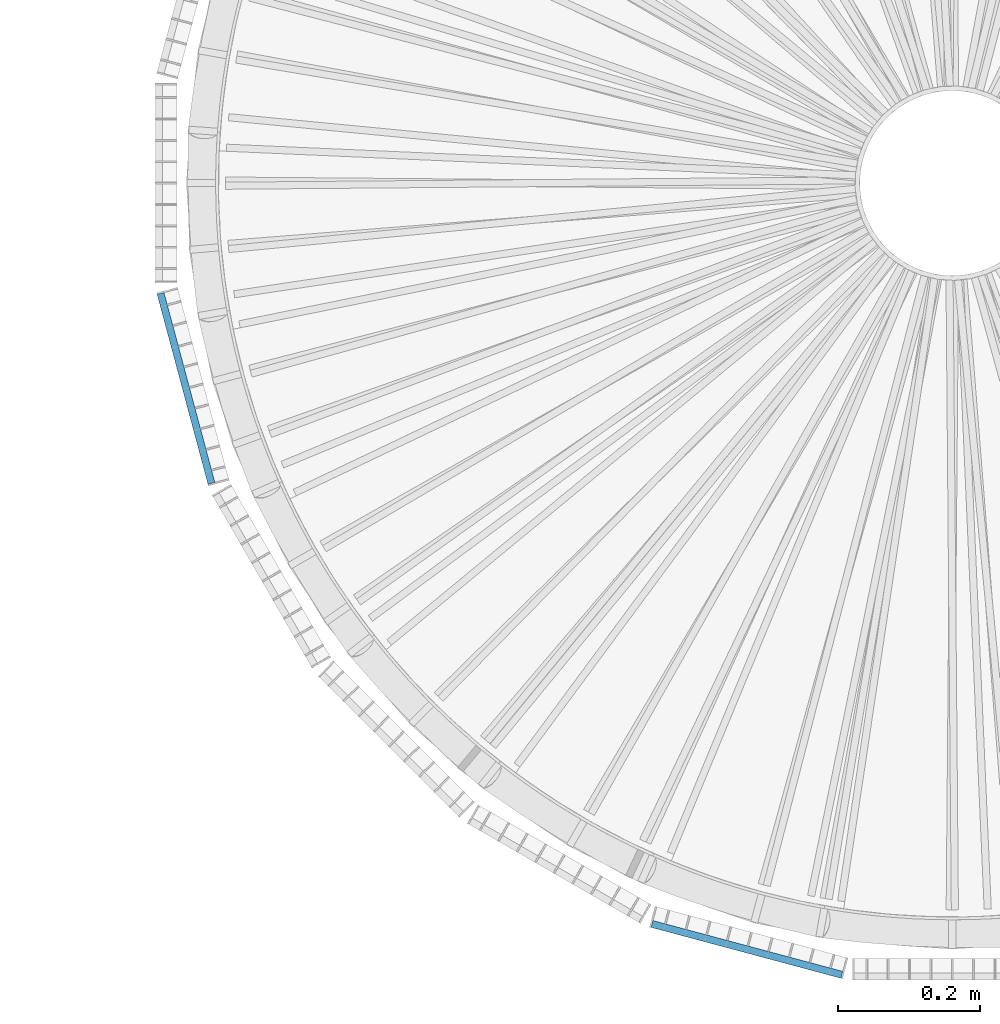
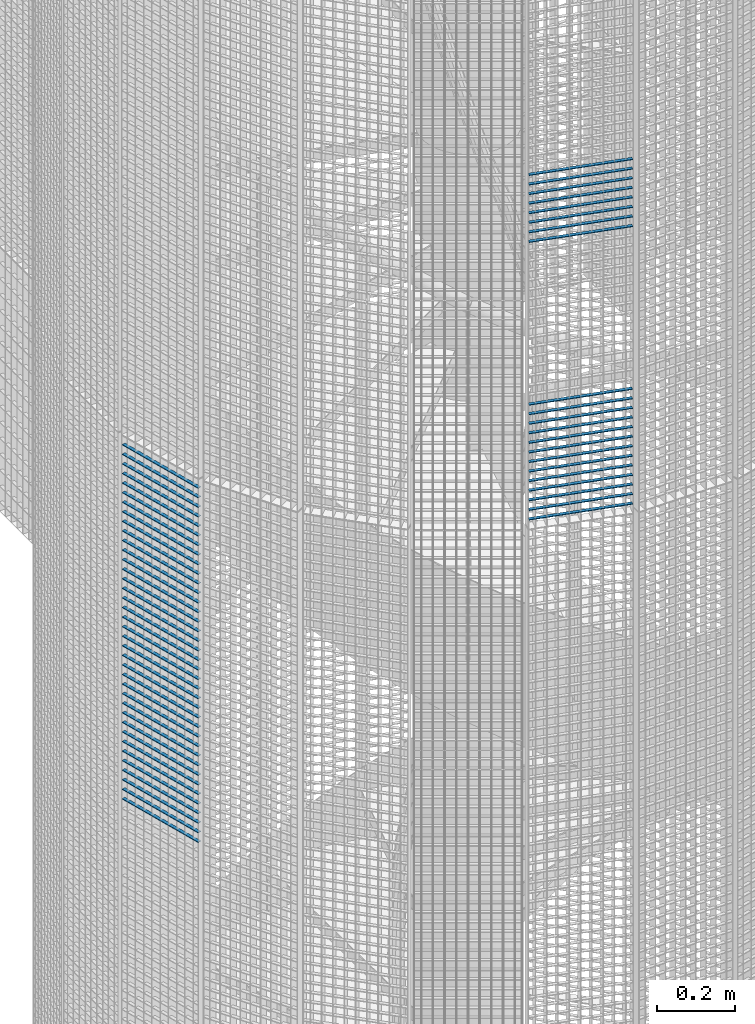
# One storey, part 370 of 1183: 59 beams, 2 elements without a shape of their own.
"""IFC2X3 building model written with IfcOpenShell, lengths in millimetres."""

from ifc_helpers import new_model, si_unit, frame, origin_with_axes, origin_2d_with_axis, place, context, subcontext, project, spatial, rectangle, extrude, material, type_object, element, aggregate, save


model = new_model("IFC2X3")

# Units and contexts
model_context = context("Model", 3, precision=1e-05, world=origin_with_axes())
body_context = subcontext(model_context, "Body", "Model", "MODEL_VIEW")
ifc_project = project(units=[si_unit("LENGTHUNIT", "METRE", prefix="MILLI"), si_unit("AREAUNIT", "SQUARE_METRE"), si_unit("VOLUMEUNIT", "CUBIC_METRE"), si_unit("MASSUNIT", "GRAM", prefix="KILO"), si_unit("TIMEUNIT", "SECOND"), si_unit("PLANEANGLEUNIT", "RADIAN"), si_unit("SOLIDANGLEUNIT", "STERADIAN"), si_unit("THERMODYNAMICTEMPERATUREUNIT", "DEGREE_CELSIUS"), si_unit("LUMINOUSINTENSITYUNIT", "LUMEN")], contexts=[model_context])

# Site, building, storey
site_placement = place(None, origin_with_axes())
site = spatial("IfcSite", under=ifc_project, at=site_placement, Name="Undefined", CompositionType="ELEMENT")
building_placement = place(site_placement, origin_with_axes())
building = spatial("IfcBuilding", under=site, at=building_placement, Name="Undefined", CompositionType="ELEMENT")
storey_placement = place(building_placement, origin_with_axes())
storey = spatial("IfcBuildingStorey", under=building, at=storey_placement, Name="Undefined", CompositionType="ELEMENT", Elevation=0.0)

# Assembly, beams
assembly_1_placement = place(storey_placement, origin_with_axes())
assembly_1 = element("IfcElementAssembly", 1, at=assembly_1_placement, inside=storey, Name="BORDURE", AssemblyPlace="NOTDEFINED", PredefinedType="NOTDEFINED")
ifc_material = material(Name="STEEL/S235JR")
beam_type = type_object("IfcBeamType", Name="PL2*10", PredefinedType="NOTDEFINED")
beam_1_placement = place(assembly_1_placement, frame((21445.1040732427, -1111.25508286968, 6900.0), z_axis=(-0.258819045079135, -0.965925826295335, 0.0), x_axis=(-0.965925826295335, 0.258819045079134, 0.0)))
beam_1 = element("IfcBeam", 2, at=beam_1_placement, type_object=beam_type, material=ifc_material, Name="ENTRETOISE", context=body_context, shape_type="SweptSolid", body=[
    extrude(rectangle(XDim=2.0, YDim=10.0, at=origin_2d_with_axis()), frame((275.999999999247, 9.09494701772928e-13, 1.53210777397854e-14), z_axis=(-1.0, 0.0, 0.0), x_axis=(0.0, -1.0, 0.0)), (0.0, 0.0, 1.0), 276.0),
])
beam_2_placement = place(assembly_1_placement, frame((21445.1040732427, -1111.25508286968, 6390.0), z_axis=(-0.258819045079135, -0.965925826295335, 0.0), x_axis=(-0.965925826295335, 0.258819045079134, 0.0)))
beam_2 = element("IfcBeam", 3, at=beam_2_placement, type_object=beam_type, material=ifc_material, Name="ENTRETOISE", context=body_context, shape_type="SweptSolid", body=[
    extrude(rectangle(XDim=2.0, YDim=10.0, at=origin_2d_with_axis()), frame((275.999999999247, 9.09494701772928e-13, 1.53210777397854e-14), z_axis=(-1.0, 0.0, 0.0), x_axis=(0.0, -1.0, 0.0)), (0.0, 0.0, 1.0), 276.0),
])
beam_3_placement = place(assembly_1_placement, frame((21445.1040732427, -1111.25508286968, 6930.0), z_axis=(-0.258819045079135, -0.965925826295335, 0.0), x_axis=(-0.965925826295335, 0.258819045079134, 0.0)))
beam_3 = element("IfcBeam", 4, at=beam_3_placement, type_object=beam_type, material=ifc_material, Name="ENTRETOISE", context=body_context, shape_type="SweptSolid", body=[
    extrude(rectangle(XDim=2.0, YDim=10.0, at=origin_2d_with_axis()), frame((275.999999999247, 9.09494701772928e-13, 1.53210777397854e-14), z_axis=(-1.0, 0.0, 0.0), x_axis=(0.0, -1.0, 0.0)), (0.0, 0.0, 1.0), 276.0),
])
beam_4_placement = place(assembly_1_placement, frame((21445.1040732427, -1111.25508286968, 6360.0), z_axis=(-0.258819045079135, -0.965925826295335, 0.0), x_axis=(-0.965925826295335, 0.258819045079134, 0.0)))
beam_4 = element("IfcBeam", 5, at=beam_4_placement, type_object=beam_type, material=ifc_material, Name="ENTRETOISE", context=body_context, shape_type="SweptSolid", body=[
    extrude(rectangle(XDim=2.0, YDim=10.0, at=origin_2d_with_axis()), frame((275.999999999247, 9.09494701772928e-13, 1.53210777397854e-14), z_axis=(-1.0, 0.0, 0.0), x_axis=(0.0, -1.0, 0.0)), (0.0, 0.0, 1.0), 276.0),
])
beam_5_placement = place(assembly_1_placement, frame((21445.1040732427, -1111.25508286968, 6330.0), z_axis=(-0.258819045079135, -0.965925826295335, 0.0), x_axis=(-0.965925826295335, 0.258819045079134, 0.0)))
beam_5 = element("IfcBeam", 6, at=beam_5_placement, type_object=beam_type, material=ifc_material, Name="ENTRETOISE", context=body_context, shape_type="SweptSolid", body=[
    extrude(rectangle(XDim=2.0, YDim=10.0, at=origin_2d_with_axis()), frame((275.999999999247, 9.09494701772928e-13, 1.53210777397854e-14), z_axis=(-1.0, 0.0, 0.0), x_axis=(0.0, -1.0, 0.0)), (0.0, 0.0, 1.0), 276.0),
])
beam_6_placement = place(assembly_1_placement, frame((21445.1040732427, -1111.25508286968, 6960.0), z_axis=(-0.258819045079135, -0.965925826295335, 0.0), x_axis=(-0.965925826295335, 0.258819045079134, 0.0)))
beam_6 = element("IfcBeam", 7, at=beam_6_placement, type_object=beam_type, material=ifc_material, Name="ENTRETOISE", context=body_context, shape_type="SweptSolid", body=[
    extrude(rectangle(XDim=2.0, YDim=10.0, at=origin_2d_with_axis()), frame((275.999999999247, 9.09494701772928e-13, 1.53210777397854e-14), z_axis=(-1.0, 0.0, 0.0), x_axis=(0.0, -1.0, 0.0)), (0.0, 0.0, 1.0), 276.0),
])
beam_7_placement = place(assembly_1_placement, frame((21445.1040732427, -1111.25508286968, 6300.0), z_axis=(-0.258819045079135, -0.965925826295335, 0.0), x_axis=(-0.965925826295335, 0.258819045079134, 0.0)))
beam_7 = element("IfcBeam", 8, at=beam_7_placement, type_object=beam_type, material=ifc_material, Name="ENTRETOISE", context=body_context, shape_type="SweptSolid", body=[
    extrude(rectangle(XDim=2.0, YDim=10.0, at=origin_2d_with_axis()), frame((275.999999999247, 9.09494701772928e-13, 1.53210777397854e-14), z_axis=(-1.0, 0.0, 0.0), x_axis=(0.0, -1.0, 0.0)), (0.0, 0.0, 1.0), 276.0),
])
beam_8_placement = place(assembly_1_placement, frame((21445.1040732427, -1111.25508286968, 6270.0), z_axis=(-0.258819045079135, -0.965925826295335, 0.0), x_axis=(-0.965925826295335, 0.258819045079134, 0.0)))
beam_8 = element("IfcBeam", 9, at=beam_8_placement, type_object=beam_type, material=ifc_material, Name="ENTRETOISE", context=body_context, shape_type="SweptSolid", body=[
    extrude(rectangle(XDim=2.0, YDim=10.0, at=origin_2d_with_axis()), frame((275.999999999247, 9.09494701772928e-13, 1.53210777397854e-14), z_axis=(-1.0, 0.0, 0.0), x_axis=(0.0, -1.0, 0.0)), (0.0, 0.0, 1.0), 276.0),
])
beam_9_placement = place(assembly_1_placement, frame((21445.1040732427, -1111.25508286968, 6990.0), z_axis=(-0.258819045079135, -0.965925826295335, 0.0), x_axis=(-0.965925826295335, 0.258819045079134, 0.0)))
beam_9 = element("IfcBeam", 10, at=beam_9_placement, type_object=beam_type, material=ifc_material, Name="ENTRETOISE", context=body_context, shape_type="SweptSolid", body=[
    extrude(rectangle(XDim=2.0, YDim=10.0, at=origin_2d_with_axis()), frame((275.999999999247, 9.09494701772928e-13, 1.53210777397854e-14), z_axis=(-1.0, 0.0, 0.0), x_axis=(0.0, -1.0, 0.0)), (0.0, 0.0, 1.0), 276.0),
])
beam_10_placement = place(assembly_1_placement, frame((21445.1040732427, -1111.25508286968, 6240.0), z_axis=(-0.258819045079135, -0.965925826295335, 0.0), x_axis=(-0.965925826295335, 0.258819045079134, 0.0)))
beam_10 = element("IfcBeam", 11, at=beam_10_placement, type_object=beam_type, material=ifc_material, Name="ENTRETOISE", context=body_context, shape_type="SweptSolid", body=[
    extrude(rectangle(XDim=2.0, YDim=10.0, at=origin_2d_with_axis()), frame((275.999999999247, 9.09494701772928e-13, 1.53210777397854e-14), z_axis=(-1.0, 0.0, 0.0), x_axis=(0.0, -1.0, 0.0)), (0.0, 0.0, 1.0), 276.0),
])
beam_11_placement = place(assembly_1_placement, frame((21445.1040732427, -1111.25508286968, 7020.0), z_axis=(-0.258819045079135, -0.965925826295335, 0.0), x_axis=(-0.965925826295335, 0.258819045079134, 0.0)))
beam_11 = element("IfcBeam", 12, at=beam_11_placement, type_object=beam_type, material=ifc_material, Name="ENTRETOISE", context=body_context, shape_type="SweptSolid", body=[
    extrude(rectangle(XDim=2.0, YDim=10.0, at=origin_2d_with_axis()), frame((275.999999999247, 9.09494701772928e-13, 1.53210777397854e-14), z_axis=(-1.0, 0.0, 0.0), x_axis=(0.0, -1.0, 0.0)), (0.0, 0.0, 1.0), 276.0),
])
beam_12_placement = place(assembly_1_placement, frame((21445.1040732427, -1111.25508286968, 6210.0), z_axis=(-0.258819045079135, -0.965925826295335, 0.0), x_axis=(-0.965925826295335, 0.258819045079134, 0.0)))
beam_12 = element("IfcBeam", 13, at=beam_12_placement, type_object=beam_type, material=ifc_material, Name="ENTRETOISE", context=body_context, shape_type="SweptSolid", body=[
    extrude(rectangle(XDim=2.0, YDim=10.0, at=origin_2d_with_axis()), frame((275.999999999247, 9.09494701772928e-13, 1.53210777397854e-14), z_axis=(-1.0, 0.0, 0.0), x_axis=(0.0, -1.0, 0.0)), (0.0, 0.0, 1.0), 276.0),
])
beam_13_placement = place(assembly_1_placement, frame((21445.1040732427, -1111.25508286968, 6180.0), z_axis=(-0.258819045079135, -0.965925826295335, 0.0), x_axis=(-0.965925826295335, 0.258819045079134, 0.0)))
beam_13 = element("IfcBeam", 14, at=beam_13_placement, type_object=beam_type, material=ifc_material, Name="ENTRETOISE", context=body_context, shape_type="SweptSolid", body=[
    extrude(rectangle(XDim=2.0, YDim=10.0, at=origin_2d_with_axis()), frame((275.999999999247, 9.09494701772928e-13, 1.53210777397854e-14), z_axis=(-1.0, 0.0, 0.0), x_axis=(0.0, -1.0, 0.0)), (0.0, 0.0, 1.0), 276.0),
])
beam_14_placement = place(assembly_1_placement, frame((21445.1040732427, -1111.25508286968, 7050.0), z_axis=(-0.258819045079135, -0.965925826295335, 0.0), x_axis=(-0.965925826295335, 0.258819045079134, 0.0)))
beam_14 = element("IfcBeam", 15, at=beam_14_placement, type_object=beam_type, material=ifc_material, Name="ENTRETOISE", context=body_context, shape_type="SweptSolid", body=[
    extrude(rectangle(XDim=2.0, YDim=10.0, at=origin_2d_with_axis()), frame((275.999999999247, 9.09494701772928e-13, 1.53210777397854e-14), z_axis=(-1.0, 0.0, 0.0), x_axis=(0.0, -1.0, 0.0)), (0.0, 0.0, 1.0), 276.0),
])
beam_15_placement = place(assembly_1_placement, frame((21445.1040732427, -1111.25508286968, 6150.0), z_axis=(-0.258819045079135, -0.965925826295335, 0.0), x_axis=(-0.965925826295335, 0.258819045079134, 0.0)))
beam_15 = element("IfcBeam", 16, at=beam_15_placement, type_object=beam_type, material=ifc_material, Name="ENTRETOISE", context=body_context, shape_type="SweptSolid", body=[
    extrude(rectangle(XDim=2.0, YDim=10.0, at=origin_2d_with_axis()), frame((275.999999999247, 9.09494701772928e-13, 1.53210777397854e-14), z_axis=(-1.0, 0.0, 0.0), x_axis=(0.0, -1.0, 0.0)), (0.0, 0.0, 1.0), 276.0),
])
beam_16_placement = place(assembly_1_placement, frame((21445.1040732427, -1111.25508286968, 6120.0), z_axis=(-0.258819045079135, -0.965925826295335, 0.0), x_axis=(-0.965925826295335, 0.258819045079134, 0.0)))
beam_16 = element("IfcBeam", 17, at=beam_16_placement, type_object=beam_type, material=ifc_material, Name="ENTRETOISE", context=body_context, shape_type="SweptSolid", body=[
    extrude(rectangle(XDim=2.0, YDim=10.0, at=origin_2d_with_axis()), frame((275.999999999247, 9.09494701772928e-13, 1.53210777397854e-14), z_axis=(-1.0, 0.0, 0.0), x_axis=(0.0, -1.0, 0.0)), (0.0, 0.0, 1.0), 276.0),
])
beam_17_placement = place(assembly_1_placement, frame((21445.1040732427, -1111.25508286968, 7080.0), z_axis=(-0.258819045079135, -0.965925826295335, 0.0), x_axis=(-0.965925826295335, 0.258819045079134, 0.0)))
beam_17 = element("IfcBeam", 18, at=beam_17_placement, type_object=beam_type, material=ifc_material, Name="ENTRETOISE", context=body_context, shape_type="SweptSolid", body=[
    extrude(rectangle(XDim=2.0, YDim=10.0, at=origin_2d_with_axis()), frame((275.999999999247, 9.09494701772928e-13, 1.53210777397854e-14), z_axis=(-1.0, 0.0, 0.0), x_axis=(0.0, -1.0, 0.0)), (0.0, 0.0, 1.0), 276.0),
])
beam_18_placement = place(assembly_1_placement, frame((21445.1040732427, -1111.25508286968, 6090.0), z_axis=(-0.258819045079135, -0.965925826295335, 0.0), x_axis=(-0.965925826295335, 0.258819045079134, 0.0)))
beam_18 = element("IfcBeam", 19, at=beam_18_placement, type_object=beam_type, material=ifc_material, Name="ENTRETOISE", context=body_context, shape_type="SweptSolid", body=[
    extrude(rectangle(XDim=2.0, YDim=10.0, at=origin_2d_with_axis()), frame((275.999999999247, 9.09494701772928e-13, 1.53210777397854e-14), z_axis=(-1.0, 0.0, 0.0), x_axis=(0.0, -1.0, 0.0)), (0.0, 0.0, 1.0), 276.0),
])
beam_19_placement = place(assembly_1_placement, frame((21445.1040732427, -1111.25508286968, 6060.0), z_axis=(-0.258819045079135, -0.965925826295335, 0.0), x_axis=(-0.965925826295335, 0.258819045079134, 0.0)))
beam_19 = element("IfcBeam", 20, at=beam_19_placement, type_object=beam_type, material=ifc_material, Name="ENTRETOISE", context=body_context, shape_type="SweptSolid", body=[
    extrude(rectangle(XDim=2.0, YDim=10.0, at=origin_2d_with_axis()), frame((275.999999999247, 9.09494701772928e-13, 1.53210777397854e-14), z_axis=(-1.0, 0.0, 0.0), x_axis=(0.0, -1.0, 0.0)), (0.0, 0.0, 1.0), 276.0),
])
beam_20_placement = place(assembly_1_placement, frame((21445.1040732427, -1111.25508286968, 7110.0), z_axis=(-0.258819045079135, -0.965925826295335, 0.0), x_axis=(-0.965925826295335, 0.258819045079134, 0.0)))
beam_20 = element("IfcBeam", 21, at=beam_20_placement, type_object=beam_type, material=ifc_material, Name="ENTRETOISE", context=body_context, shape_type="SweptSolid", body=[
    extrude(rectangle(XDim=2.0, YDim=10.0, at=origin_2d_with_axis()), frame((275.999999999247, 9.09494701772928e-13, 1.53210777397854e-14), z_axis=(-1.0, 0.0, 0.0), x_axis=(0.0, -1.0, 0.0)), (0.0, 0.0, 1.0), 276.0),
])
beam_21_placement = place(assembly_1_placement, frame((21445.1040732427, -1111.25508286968, 6030.0), z_axis=(-0.258819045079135, -0.965925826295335, 0.0), x_axis=(-0.965925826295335, 0.258819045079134, 0.0)))
beam_21 = element("IfcBeam", 22, at=beam_21_placement, type_object=beam_type, material=ifc_material, Name="ENTRETOISE", context=body_context, shape_type="SweptSolid", body=[
    extrude(rectangle(XDim=2.0, YDim=10.0, at=origin_2d_with_axis()), frame((275.999999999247, 9.09494701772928e-13, 1.53210777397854e-14), z_axis=(-1.0, 0.0, 0.0), x_axis=(0.0, -1.0, 0.0)), (0.0, 0.0, 1.0), 276.0),
])
aggregate(assembly_1, [beam_1, beam_2, beam_3, beam_4, beam_5, beam_6, beam_7, beam_8, beam_9, beam_10, beam_11, beam_12, beam_13, beam_14, beam_15, beam_16, beam_17, beam_18, beam_19, beam_20, beam_21])

assembly_2_placement = place(storey_placement, origin_with_axes())
assembly_2 = element("IfcElementAssembly", 23, at=assembly_2_placement, inside=storey, Name="BORDURE", AssemblyPlace="NOTDEFINED", PredefinedType="NOTDEFINED")
beam_22_placement = place(assembly_2_placement, frame((20560.1769047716, -421.483733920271, 5970.0), z_axis=(-0.965925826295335, -0.258819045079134, 0.0), x_axis=(-0.258819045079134, 0.965925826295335, 0.0)))
beam_22 = element("IfcBeam", 24, at=beam_22_placement, type_object=beam_type, material=ifc_material, Name="ENTRETOISE", context=body_context, shape_type="SweptSolid", body=[
    extrude(rectangle(XDim=2.0, YDim=10.0, at=origin_2d_with_axis()), frame((275.999999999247, 9.09494701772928e-13, 1.53210777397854e-14), z_axis=(-1.0, 0.0, 0.0), x_axis=(0.0, -1.0, 0.0)), (0.0, 0.0, 1.0), 276.0),
])
beam_23_placement = place(assembly_2_placement, frame((20560.1769047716, -421.483733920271, 5940.0), z_axis=(-0.965925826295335, -0.258819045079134, 0.0), x_axis=(-0.258819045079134, 0.965925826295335, 0.0)))
beam_23 = element("IfcBeam", 25, at=beam_23_placement, type_object=beam_type, material=ifc_material, Name="ENTRETOISE", context=body_context, shape_type="SweptSolid", body=[
    extrude(rectangle(XDim=2.0, YDim=10.0, at=origin_2d_with_axis()), frame((275.999999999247, 9.09494701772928e-13, 1.53210777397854e-14), z_axis=(-1.0, 0.0, 0.0), x_axis=(0.0, -1.0, 0.0)), (0.0, 0.0, 1.0), 276.0),
])
beam_24_placement = place(assembly_2_placement, frame((20560.1769047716, -421.483733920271, 5910.0), z_axis=(-0.965925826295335, -0.258819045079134, 0.0), x_axis=(-0.258819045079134, 0.965925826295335, 0.0)))
beam_24 = element("IfcBeam", 26, at=beam_24_placement, type_object=beam_type, material=ifc_material, Name="ENTRETOISE", context=body_context, shape_type="SweptSolid", body=[
    extrude(rectangle(XDim=2.0, YDim=10.0, at=origin_2d_with_axis()), frame((275.999999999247, 9.09494701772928e-13, 1.53210777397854e-14), z_axis=(-1.0, 0.0, 0.0), x_axis=(0.0, -1.0, 0.0)), (0.0, 0.0, 1.0), 276.0),
])
beam_25_placement = place(assembly_2_placement, frame((20560.1769047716, -421.483733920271, 5880.0), z_axis=(-0.965925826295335, -0.258819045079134, 0.0), x_axis=(-0.258819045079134, 0.965925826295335, 0.0)))
beam_25 = element("IfcBeam", 27, at=beam_25_placement, type_object=beam_type, material=ifc_material, Name="ENTRETOISE", context=body_context, shape_type="SweptSolid", body=[
    extrude(rectangle(XDim=2.0, YDim=10.0, at=origin_2d_with_axis()), frame((275.999999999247, 9.09494701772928e-13, 1.53210777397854e-14), z_axis=(-1.0, 0.0, 0.0), x_axis=(0.0, -1.0, 0.0)), (0.0, 0.0, 1.0), 276.0),
])
beam_26_placement = place(assembly_2_placement, frame((20560.1769047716, -421.483733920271, 5850.0), z_axis=(-0.965925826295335, -0.258819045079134, 0.0), x_axis=(-0.258819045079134, 0.965925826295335, 0.0)))
beam_26 = element("IfcBeam", 28, at=beam_26_placement, type_object=beam_type, material=ifc_material, Name="ENTRETOISE", context=body_context, shape_type="SweptSolid", body=[
    extrude(rectangle(XDim=2.0, YDim=10.0, at=origin_2d_with_axis()), frame((275.999999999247, 9.09494701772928e-13, 1.53210777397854e-14), z_axis=(-1.0, 0.0, 0.0), x_axis=(0.0, -1.0, 0.0)), (0.0, 0.0, 1.0), 276.0),
])
beam_27_placement = place(assembly_2_placement, frame((20560.1769047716, -421.483733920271, 5820.0), z_axis=(-0.965925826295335, -0.258819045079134, 0.0), x_axis=(-0.258819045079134, 0.965925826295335, 0.0)))
beam_27 = element("IfcBeam", 29, at=beam_27_placement, type_object=beam_type, material=ifc_material, Name="ENTRETOISE", context=body_context, shape_type="SweptSolid", body=[
    extrude(rectangle(XDim=2.0, YDim=10.0, at=origin_2d_with_axis()), frame((275.999999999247, 9.09494701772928e-13, 1.53210777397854e-14), z_axis=(-1.0, 0.0, 0.0), x_axis=(0.0, -1.0, 0.0)), (0.0, 0.0, 1.0), 276.0),
])
beam_28_placement = place(assembly_2_placement, frame((20560.1769047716, -421.483733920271, 5790.0), z_axis=(-0.965925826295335, -0.258819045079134, 0.0), x_axis=(-0.258819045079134, 0.965925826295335, 0.0)))
beam_28 = element("IfcBeam", 30, at=beam_28_placement, type_object=beam_type, material=ifc_material, Name="ENTRETOISE", context=body_context, shape_type="SweptSolid", body=[
    extrude(rectangle(XDim=2.0, YDim=10.0, at=origin_2d_with_axis()), frame((275.999999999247, 9.09494701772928e-13, 1.53210777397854e-14), z_axis=(-1.0, 0.0, 0.0), x_axis=(0.0, -1.0, 0.0)), (0.0, 0.0, 1.0), 276.0),
])
beam_29_placement = place(assembly_2_placement, frame((20560.1769047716, -421.483733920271, 5760.0), z_axis=(-0.965925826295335, -0.258819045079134, 0.0), x_axis=(-0.258819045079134, 0.965925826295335, 0.0)))
beam_29 = element("IfcBeam", 31, at=beam_29_placement, type_object=beam_type, material=ifc_material, Name="ENTRETOISE", context=body_context, shape_type="SweptSolid", body=[
    extrude(rectangle(XDim=2.0, YDim=10.0, at=origin_2d_with_axis()), frame((275.999999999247, 9.09494701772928e-13, 1.53210777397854e-14), z_axis=(-1.0, 0.0, 0.0), x_axis=(0.0, -1.0, 0.0)), (0.0, 0.0, 1.0), 276.0),
])
beam_30_placement = place(assembly_2_placement, frame((20560.1769047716, -421.48373392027, 5730.0), z_axis=(-0.965925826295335, -0.258819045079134, 0.0), x_axis=(-0.258819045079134, 0.965925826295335, 0.0)))
beam_30 = element("IfcBeam", 32, at=beam_30_placement, type_object=beam_type, material=ifc_material, Name="ENTRETOISE", context=body_context, shape_type="SweptSolid", body=[
    extrude(rectangle(XDim=2.0, YDim=10.0, at=origin_2d_with_axis()), frame((275.999999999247, 9.09494701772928e-13, 1.53210777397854e-14), z_axis=(-1.0, 0.0, 0.0), x_axis=(0.0, -1.0, 0.0)), (0.0, 0.0, 1.0), 276.0),
])
beam_31_placement = place(assembly_2_placement, frame((20560.1769047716, -421.48373392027, 5700.0), z_axis=(-0.965925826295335, -0.258819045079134, 0.0), x_axis=(-0.258819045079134, 0.965925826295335, 0.0)))
beam_31 = element("IfcBeam", 33, at=beam_31_placement, type_object=beam_type, material=ifc_material, Name="ENTRETOISE", context=body_context, shape_type="SweptSolid", body=[
    extrude(rectangle(XDim=2.0, YDim=10.0, at=origin_2d_with_axis()), frame((275.999999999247, 9.09494701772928e-13, 1.53210777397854e-14), z_axis=(-1.0, 0.0, 0.0), x_axis=(0.0, -1.0, 0.0)), (0.0, 0.0, 1.0), 276.0),
])
beam_32_placement = place(assembly_2_placement, frame((20560.1769047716, -421.48373392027, 5670.0), z_axis=(-0.965925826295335, -0.258819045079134, 0.0), x_axis=(-0.258819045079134, 0.965925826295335, 0.0)))
beam_32 = element("IfcBeam", 34, at=beam_32_placement, type_object=beam_type, material=ifc_material, Name="ENTRETOISE", context=body_context, shape_type="SweptSolid", body=[
    extrude(rectangle(XDim=2.0, YDim=10.0, at=origin_2d_with_axis()), frame((275.999999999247, 9.09494701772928e-13, 1.53210777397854e-14), z_axis=(-1.0, 0.0, 0.0), x_axis=(0.0, -1.0, 0.0)), (0.0, 0.0, 1.0), 276.0),
])
beam_33_placement = place(assembly_2_placement, frame((20560.1769047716, -421.48373392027, 5640.0), z_axis=(-0.965925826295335, -0.258819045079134, 0.0), x_axis=(-0.258819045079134, 0.965925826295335, 0.0)))
beam_33 = element("IfcBeam", 35, at=beam_33_placement, type_object=beam_type, material=ifc_material, Name="ENTRETOISE", context=body_context, shape_type="SweptSolid", body=[
    extrude(rectangle(XDim=2.0, YDim=10.0, at=origin_2d_with_axis()), frame((275.999999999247, 9.09494701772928e-13, 1.53210777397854e-14), z_axis=(-1.0, 0.0, 0.0), x_axis=(0.0, -1.0, 0.0)), (0.0, 0.0, 1.0), 276.0),
])
beam_34_placement = place(assembly_2_placement, frame((20560.1769047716, -421.48373392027, 5610.0), z_axis=(-0.965925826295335, -0.258819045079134, 0.0), x_axis=(-0.258819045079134, 0.965925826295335, 0.0)))
beam_34 = element("IfcBeam", 36, at=beam_34_placement, type_object=beam_type, material=ifc_material, Name="ENTRETOISE", context=body_context, shape_type="SweptSolid", body=[
    extrude(rectangle(XDim=2.0, YDim=10.0, at=origin_2d_with_axis()), frame((275.999999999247, 9.09494701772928e-13, 1.53210777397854e-14), z_axis=(-1.0, 0.0, 0.0), x_axis=(0.0, -1.0, 0.0)), (0.0, 0.0, 1.0), 276.0),
])
beam_35_placement = place(assembly_2_placement, frame((20560.1769047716, -421.48373392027, 5580.0), z_axis=(-0.965925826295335, -0.258819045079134, 0.0), x_axis=(-0.258819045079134, 0.965925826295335, 0.0)))
beam_35 = element("IfcBeam", 37, at=beam_35_placement, type_object=beam_type, material=ifc_material, Name="ENTRETOISE", context=body_context, shape_type="SweptSolid", body=[
    extrude(rectangle(XDim=2.0, YDim=10.0, at=origin_2d_with_axis()), frame((275.999999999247, 9.09494701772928e-13, 1.53210777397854e-14), z_axis=(-1.0, 0.0, 0.0), x_axis=(0.0, -1.0, 0.0)), (0.0, 0.0, 1.0), 276.0),
])
beam_36_placement = place(assembly_2_placement, frame((20560.1769047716, -421.48373392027, 5550.0), z_axis=(-0.965925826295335, -0.258819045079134, 0.0), x_axis=(-0.258819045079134, 0.965925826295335, 0.0)))
beam_36 = element("IfcBeam", 38, at=beam_36_placement, type_object=beam_type, material=ifc_material, Name="ENTRETOISE", context=body_context, shape_type="SweptSolid", body=[
    extrude(rectangle(XDim=2.0, YDim=10.0, at=origin_2d_with_axis()), frame((275.999999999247, 9.09494701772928e-13, 1.53210777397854e-14), z_axis=(-1.0, 0.0, 0.0), x_axis=(0.0, -1.0, 0.0)), (0.0, 0.0, 1.0), 276.0),
])
beam_37_placement = place(assembly_2_placement, frame((20560.1769047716, -421.48373392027, 5520.0), z_axis=(-0.965925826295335, -0.258819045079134, 0.0), x_axis=(-0.258819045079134, 0.965925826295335, 0.0)))
beam_37 = element("IfcBeam", 39, at=beam_37_placement, type_object=beam_type, material=ifc_material, Name="ENTRETOISE", context=body_context, shape_type="SweptSolid", body=[
    extrude(rectangle(XDim=2.0, YDim=10.0, at=origin_2d_with_axis()), frame((275.999999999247, 9.09494701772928e-13, 1.53210777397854e-14), z_axis=(-1.0, 0.0, 0.0), x_axis=(0.0, -1.0, 0.0)), (0.0, 0.0, 1.0), 276.0),
])
beam_38_placement = place(assembly_2_placement, frame((20560.1769047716, -421.48373392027, 5490.0), z_axis=(-0.965925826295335, -0.258819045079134, 0.0), x_axis=(-0.258819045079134, 0.965925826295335, 0.0)))
beam_38 = element("IfcBeam", 40, at=beam_38_placement, type_object=beam_type, material=ifc_material, Name="ENTRETOISE", context=body_context, shape_type="SweptSolid", body=[
    extrude(rectangle(XDim=2.0, YDim=10.0, at=origin_2d_with_axis()), frame((275.999999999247, 9.09494701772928e-13, 1.53210777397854e-14), z_axis=(-1.0, 0.0, 0.0), x_axis=(0.0, -1.0, 0.0)), (0.0, 0.0, 1.0), 276.0),
])
beam_39_placement = place(assembly_2_placement, frame((20560.1769047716, -421.483733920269, 5460.0), z_axis=(-0.965925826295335, -0.258819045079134, 0.0), x_axis=(-0.258819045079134, 0.965925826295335, 0.0)))
beam_39 = element("IfcBeam", 41, at=beam_39_placement, type_object=beam_type, material=ifc_material, Name="ENTRETOISE", context=body_context, shape_type="SweptSolid", body=[
    extrude(rectangle(XDim=2.0, YDim=10.0, at=origin_2d_with_axis()), frame((275.999999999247, 9.09494701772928e-13, 1.53210777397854e-14), z_axis=(-1.0, 0.0, 0.0), x_axis=(0.0, -1.0, 0.0)), (0.0, 0.0, 1.0), 276.0),
])
beam_40_placement = place(assembly_2_placement, frame((20560.1769047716, -421.483733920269, 5430.0), z_axis=(-0.965925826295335, -0.258819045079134, 0.0), x_axis=(-0.258819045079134, 0.965925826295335, 0.0)))
beam_40 = element("IfcBeam", 42, at=beam_40_placement, type_object=beam_type, material=ifc_material, Name="ENTRETOISE", context=body_context, shape_type="SweptSolid", body=[
    extrude(rectangle(XDim=2.0, YDim=10.0, at=origin_2d_with_axis()), frame((275.999999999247, 9.09494701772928e-13, 1.53210777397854e-14), z_axis=(-1.0, 0.0, 0.0), x_axis=(0.0, -1.0, 0.0)), (0.0, 0.0, 1.0), 276.0),
])
beam_41_placement = place(assembly_2_placement, frame((20560.1769047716, -421.483733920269, 5400.0), z_axis=(-0.965925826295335, -0.258819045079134, 0.0), x_axis=(-0.258819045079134, 0.965925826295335, 0.0)))
beam_41 = element("IfcBeam", 43, at=beam_41_placement, type_object=beam_type, material=ifc_material, Name="ENTRETOISE", context=body_context, shape_type="SweptSolid", body=[
    extrude(rectangle(XDim=2.0, YDim=10.0, at=origin_2d_with_axis()), frame((275.999999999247, 9.09494701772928e-13, 1.53210777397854e-14), z_axis=(-1.0, 0.0, 0.0), x_axis=(0.0, -1.0, 0.0)), (0.0, 0.0, 1.0), 276.0),
])
beam_42_placement = place(assembly_2_placement, frame((20560.1769047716, -421.483733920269, 5370.0), z_axis=(-0.965925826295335, -0.258819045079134, 0.0), x_axis=(-0.258819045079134, 0.965925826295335, 0.0)))
beam_42 = element("IfcBeam", 44, at=beam_42_placement, type_object=beam_type, material=ifc_material, Name="ENTRETOISE", context=body_context, shape_type="SweptSolid", body=[
    extrude(rectangle(XDim=2.0, YDim=10.0, at=origin_2d_with_axis()), frame((275.999999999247, 9.09494701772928e-13, 1.53210777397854e-14), z_axis=(-1.0, 0.0, 0.0), x_axis=(0.0, -1.0, 0.0)), (0.0, 0.0, 1.0), 276.0),
])
beam_43_placement = place(assembly_2_placement, frame((20560.1769047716, -421.483733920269, 5340.0), z_axis=(-0.965925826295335, -0.258819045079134, 0.0), x_axis=(-0.258819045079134, 0.965925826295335, 0.0)))
beam_43 = element("IfcBeam", 45, at=beam_43_placement, type_object=beam_type, material=ifc_material, Name="ENTRETOISE", context=body_context, shape_type="SweptSolid", body=[
    extrude(rectangle(XDim=2.0, YDim=10.0, at=origin_2d_with_axis()), frame((275.999999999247, 9.09494701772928e-13, 1.53210777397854e-14), z_axis=(-1.0, 0.0, 0.0), x_axis=(0.0, -1.0, 0.0)), (0.0, 0.0, 1.0), 276.0),
])
beam_44_placement = place(assembly_2_placement, frame((20560.1769047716, -421.483733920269, 5310.0), z_axis=(-0.965925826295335, -0.258819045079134, 0.0), x_axis=(-0.258819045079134, 0.965925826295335, 0.0)))
beam_44 = element("IfcBeam", 46, at=beam_44_placement, type_object=beam_type, material=ifc_material, Name="ENTRETOISE", context=body_context, shape_type="SweptSolid", body=[
    extrude(rectangle(XDim=2.0, YDim=10.0, at=origin_2d_with_axis()), frame((275.999999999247, 9.09494701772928e-13, 1.53210777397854e-14), z_axis=(-1.0, 0.0, 0.0), x_axis=(0.0, -1.0, 0.0)), (0.0, 0.0, 1.0), 276.0),
])
beam_45_placement = place(assembly_2_placement, frame((20560.1769047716, -421.483733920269, 5280.0), z_axis=(-0.965925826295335, -0.258819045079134, 0.0), x_axis=(-0.258819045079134, 0.965925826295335, 0.0)))
beam_45 = element("IfcBeam", 47, at=beam_45_placement, type_object=beam_type, material=ifc_material, Name="ENTRETOISE", context=body_context, shape_type="SweptSolid", body=[
    extrude(rectangle(XDim=2.0, YDim=10.0, at=origin_2d_with_axis()), frame((275.999999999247, 9.09494701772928e-13, 1.53210777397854e-14), z_axis=(-1.0, 0.0, 0.0), x_axis=(0.0, -1.0, 0.0)), (0.0, 0.0, 1.0), 276.0),
])
beam_46_placement = place(assembly_2_placement, frame((20560.1769047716, -421.483733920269, 5250.0), z_axis=(-0.965925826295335, -0.258819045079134, 0.0), x_axis=(-0.258819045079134, 0.965925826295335, 0.0)))
beam_46 = element("IfcBeam", 48, at=beam_46_placement, type_object=beam_type, material=ifc_material, Name="ENTRETOISE", context=body_context, shape_type="SweptSolid", body=[
    extrude(rectangle(XDim=2.0, YDim=10.0, at=origin_2d_with_axis()), frame((275.999999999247, 9.09494701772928e-13, 1.53210777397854e-14), z_axis=(-1.0, 0.0, 0.0), x_axis=(0.0, -1.0, 0.0)), (0.0, 0.0, 1.0), 276.0),
])
beam_47_placement = place(assembly_2_placement, frame((20560.1769047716, -421.483733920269, 5220.0), z_axis=(-0.965925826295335, -0.258819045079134, 0.0), x_axis=(-0.258819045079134, 0.965925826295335, 0.0)))
beam_47 = element("IfcBeam", 49, at=beam_47_placement, type_object=beam_type, material=ifc_material, Name="ENTRETOISE", context=body_context, shape_type="SweptSolid", body=[
    extrude(rectangle(XDim=2.0, YDim=10.0, at=origin_2d_with_axis()), frame((275.999999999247, 9.09494701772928e-13, 1.53210777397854e-14), z_axis=(-1.0, 0.0, 0.0), x_axis=(0.0, -1.0, 0.0)), (0.0, 0.0, 1.0), 276.0),
])
beam_48_placement = place(assembly_2_placement, frame((20560.1769047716, -421.483733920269, 5190.0), z_axis=(-0.965925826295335, -0.258819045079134, 0.0), x_axis=(-0.258819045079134, 0.965925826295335, 0.0)))
beam_48 = element("IfcBeam", 50, at=beam_48_placement, type_object=beam_type, material=ifc_material, Name="ENTRETOISE", context=body_context, shape_type="SweptSolid", body=[
    extrude(rectangle(XDim=2.0, YDim=10.0, at=origin_2d_with_axis()), frame((275.999999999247, 9.09494701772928e-13, 1.53210777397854e-14), z_axis=(-1.0, 0.0, 0.0), x_axis=(0.0, -1.0, 0.0)), (0.0, 0.0, 1.0), 276.0),
])
beam_49_placement = place(assembly_2_placement, frame((20560.1769047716, -421.483733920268, 5160.0), z_axis=(-0.965925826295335, -0.258819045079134, 0.0), x_axis=(-0.258819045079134, 0.965925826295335, 0.0)))
beam_49 = element("IfcBeam", 51, at=beam_49_placement, type_object=beam_type, material=ifc_material, Name="ENTRETOISE", context=body_context, shape_type="SweptSolid", body=[
    extrude(rectangle(XDim=2.0, YDim=10.0, at=origin_2d_with_axis()), frame((275.999999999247, 9.09494701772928e-13, 1.53210777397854e-14), z_axis=(-1.0, 0.0, 0.0), x_axis=(0.0, -1.0, 0.0)), (0.0, 0.0, 1.0), 276.0),
])
beam_50_placement = place(assembly_2_placement, frame((20560.1769047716, -421.483733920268, 5130.0), z_axis=(-0.965925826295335, -0.258819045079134, 0.0), x_axis=(-0.258819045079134, 0.965925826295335, 0.0)))
beam_50 = element("IfcBeam", 52, at=beam_50_placement, type_object=beam_type, material=ifc_material, Name="ENTRETOISE", context=body_context, shape_type="SweptSolid", body=[
    extrude(rectangle(XDim=2.0, YDim=10.0, at=origin_2d_with_axis()), frame((275.999999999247, 9.09494701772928e-13, 1.53210777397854e-14), z_axis=(-1.0, 0.0, 0.0), x_axis=(0.0, -1.0, 0.0)), (0.0, 0.0, 1.0), 276.0),
])
beam_51_placement = place(assembly_2_placement, frame((20560.1769047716, -421.483733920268, 5100.0), z_axis=(-0.965925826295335, -0.258819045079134, 0.0), x_axis=(-0.258819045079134, 0.965925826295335, 0.0)))
beam_51 = element("IfcBeam", 53, at=beam_51_placement, type_object=beam_type, material=ifc_material, Name="ENTRETOISE", context=body_context, shape_type="SweptSolid", body=[
    extrude(rectangle(XDim=2.0, YDim=10.0, at=origin_2d_with_axis()), frame((275.999999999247, 9.09494701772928e-13, 1.53210777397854e-14), z_axis=(-1.0, 0.0, 0.0), x_axis=(0.0, -1.0, 0.0)), (0.0, 0.0, 1.0), 276.0),
])
beam_52_placement = place(assembly_2_placement, frame((20560.1769047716, -421.483733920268, 5070.0), z_axis=(-0.965925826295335, -0.258819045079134, 0.0), x_axis=(-0.258819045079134, 0.965925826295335, 0.0)))
beam_52 = element("IfcBeam", 54, at=beam_52_placement, type_object=beam_type, material=ifc_material, Name="ENTRETOISE", context=body_context, shape_type="SweptSolid", body=[
    extrude(rectangle(XDim=2.0, YDim=10.0, at=origin_2d_with_axis()), frame((275.999999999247, 9.09494701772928e-13, 1.53210777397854e-14), z_axis=(-1.0, 0.0, 0.0), x_axis=(0.0, -1.0, 0.0)), (0.0, 0.0, 1.0), 276.0),
])
beam_53_placement = place(assembly_2_placement, frame((20560.1769047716, -421.483733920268, 5040.0), z_axis=(-0.965925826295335, -0.258819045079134, 0.0), x_axis=(-0.258819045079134, 0.965925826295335, 0.0)))
beam_53 = element("IfcBeam", 55, at=beam_53_placement, type_object=beam_type, material=ifc_material, Name="ENTRETOISE", context=body_context, shape_type="SweptSolid", body=[
    extrude(rectangle(XDim=2.0, YDim=10.0, at=origin_2d_with_axis()), frame((275.999999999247, 9.09494701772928e-13, 1.53210777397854e-14), z_axis=(-1.0, 0.0, 0.0), x_axis=(0.0, -1.0, 0.0)), (0.0, 0.0, 1.0), 276.0),
])
beam_54_placement = place(assembly_2_placement, frame((20560.1769047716, -421.483733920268, 5010.0), z_axis=(-0.965925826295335, -0.258819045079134, 0.0), x_axis=(-0.258819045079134, 0.965925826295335, 0.0)))
beam_54 = element("IfcBeam", 56, at=beam_54_placement, type_object=beam_type, material=ifc_material, Name="ENTRETOISE", context=body_context, shape_type="SweptSolid", body=[
    extrude(rectangle(XDim=2.0, YDim=10.0, at=origin_2d_with_axis()), frame((275.999999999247, 9.09494701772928e-13, 1.53210777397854e-14), z_axis=(-1.0, 0.0, 0.0), x_axis=(0.0, -1.0, 0.0)), (0.0, 0.0, 1.0), 276.0),
])
beam_55_placement = place(assembly_2_placement, frame((20560.1769047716, -421.483733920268, 4980.0), z_axis=(-0.965925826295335, -0.258819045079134, 0.0), x_axis=(-0.258819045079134, 0.965925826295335, 0.0)))
beam_55 = element("IfcBeam", 57, at=beam_55_placement, type_object=beam_type, material=ifc_material, Name="ENTRETOISE", context=body_context, shape_type="SweptSolid", body=[
    extrude(rectangle(XDim=2.0, YDim=10.0, at=origin_2d_with_axis()), frame((275.999999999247, 9.09494701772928e-13, 1.53210777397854e-14), z_axis=(-1.0, 0.0, 0.0), x_axis=(0.0, -1.0, 0.0)), (0.0, 0.0, 1.0), 276.0),
])
beam_56_placement = place(assembly_2_placement, frame((20560.1769047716, -421.483733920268, 4950.0), z_axis=(-0.965925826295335, -0.258819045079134, 0.0), x_axis=(-0.258819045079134, 0.965925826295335, 0.0)))
beam_56 = element("IfcBeam", 58, at=beam_56_placement, type_object=beam_type, material=ifc_material, Name="ENTRETOISE", context=body_context, shape_type="SweptSolid", body=[
    extrude(rectangle(XDim=2.0, YDim=10.0, at=origin_2d_with_axis()), frame((275.999999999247, 9.09494701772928e-13, 1.53210777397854e-14), z_axis=(-1.0, 0.0, 0.0), x_axis=(0.0, -1.0, 0.0)), (0.0, 0.0, 1.0), 276.0),
])
beam_57_placement = place(assembly_2_placement, frame((20560.1769047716, -421.483733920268, 4920.0), z_axis=(-0.965925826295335, -0.258819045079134, 0.0), x_axis=(-0.258819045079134, 0.965925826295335, 0.0)))
beam_57 = element("IfcBeam", 59, at=beam_57_placement, type_object=beam_type, material=ifc_material, Name="ENTRETOISE", context=body_context, shape_type="SweptSolid", body=[
    extrude(rectangle(XDim=2.0, YDim=10.0, at=origin_2d_with_axis()), frame((275.999999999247, 9.09494701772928e-13, 1.53210777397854e-14), z_axis=(-1.0, 0.0, 0.0), x_axis=(0.0, -1.0, 0.0)), (0.0, 0.0, 1.0), 276.0),
])
beam_58_placement = place(assembly_2_placement, frame((20560.1769047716, -421.483733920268, 4890.0), z_axis=(-0.965925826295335, -0.258819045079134, 0.0), x_axis=(-0.258819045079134, 0.965925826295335, 0.0)))
beam_58 = element("IfcBeam", 60, at=beam_58_placement, type_object=beam_type, material=ifc_material, Name="ENTRETOISE", context=body_context, shape_type="SweptSolid", body=[
    extrude(rectangle(XDim=2.0, YDim=10.0, at=origin_2d_with_axis()), frame((275.999999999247, 9.09494701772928e-13, 1.53210777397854e-14), z_axis=(-1.0, 0.0, 0.0), x_axis=(0.0, -1.0, 0.0)), (0.0, 0.0, 1.0), 276.0),
])
beam_59_placement = place(assembly_2_placement, frame((20560.1769047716, -421.483733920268, 4860.0), z_axis=(-0.965925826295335, -0.258819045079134, 0.0), x_axis=(-0.258819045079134, 0.965925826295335, 0.0)))
beam_59 = element("IfcBeam", 61, at=beam_59_placement, type_object=beam_type, material=ifc_material, Name="ENTRETOISE", context=body_context, shape_type="SweptSolid", body=[
    extrude(rectangle(XDim=2.0, YDim=10.0, at=origin_2d_with_axis()), frame((275.999999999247, 9.09494701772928e-13, 1.53210777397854e-14), z_axis=(-1.0, 0.0, 0.0), x_axis=(0.0, -1.0, 0.0)), (0.0, 0.0, 1.0), 276.0),
])
aggregate(assembly_2, [beam_22, beam_23, beam_24, beam_25, beam_26, beam_27, beam_28, beam_29, beam_30, beam_31, beam_32, beam_33, beam_34, beam_35, beam_36, beam_37, beam_38, beam_39, beam_40, beam_41, beam_42, beam_43, beam_44, beam_45, beam_46, beam_47, beam_48, beam_49, beam_50, beam_51, beam_52, beam_53, beam_54, beam_55, beam_56, beam_57, beam_58, beam_59])

save(model, "model.ifc")
